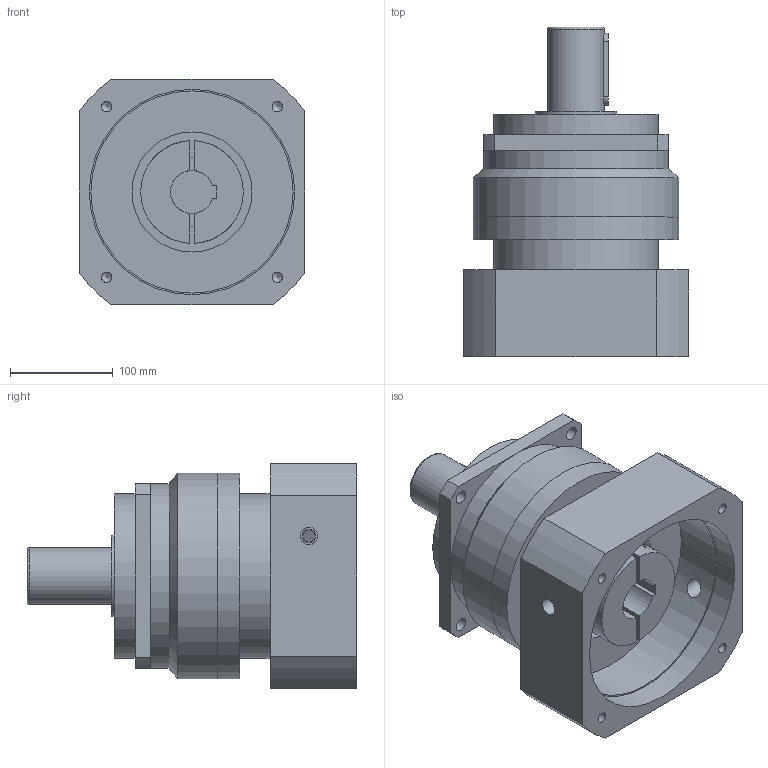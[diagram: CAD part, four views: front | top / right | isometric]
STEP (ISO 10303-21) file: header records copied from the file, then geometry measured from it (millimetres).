
FILE_DESCRIPTION(/* description */ ('CAx-IF Rec.Pracs.---Representation and Presentation of Product Manufacturing Information (PMI)---4.0---2014-10-13','CAx-IF Rec.Pracs.---3D Tessellated Geometry---0.4---2014-09-14','2;1'),/* implementation_level */ '2;1');
FILE_NAME(/* name */ 'WVRB180-L1-200-235-M12-42K12-117',/* time_stamp */ '2021-10-18T19:35:48+08:00',/* author */ (''),/* organization */ (' '),/* preprocessor_version */ 'ST-DEVELOPER v16.7',/* originating_system */ $,/* authorisation */ $);
FILE_SCHEMA (('AP242_MANAGED_MODEL_BASED_3D_ENGINEERING_MIM_LF { 1 0 10303 442 20130219 1 4 }'));
Length unit declared in the file: millimetre
Products named in the file (3): WVRB180-L1-200-235-M12-42K12-117; Body_sldprt; Body_2_sldprt
Assembly tree (2 placements, depth 2):
  WVRB180-L1-200-235-M12-42K12-117
    Body_sldprt
    Body_2_sldprt
Bounding box: 220 x 321 x 220 mm (x, y, z)
Volume: 5992056 mm3; surface area: 459991.9 mm2
Topology: 2 solids, 2 shells, 95 faces, 226 edges, 148 vertices
Faces by surface type: plane 44, cylinder 42, cone 8, torus 1
Full cylindrical faces by diameter (mm): 10.2 x4, 12 x2, 13 x6, 17 x2, 18 x1, 20 x2, 21 x1, 55 x1, 68 x1, 79.5 x1, 117 x1, 160 x2, 180 x1, 197 x1, 200 x3
Entity records: 3646 total; most frequent: CARTESIAN_POINT 657, DIRECTION 498, ORIENTED_EDGE 344, AXIS2_PLACEMENT_3D 236, EDGE_CURVE 172, FACE_BOUND 171, EDGE_LOOP 166, VERTEX_POINT 137
